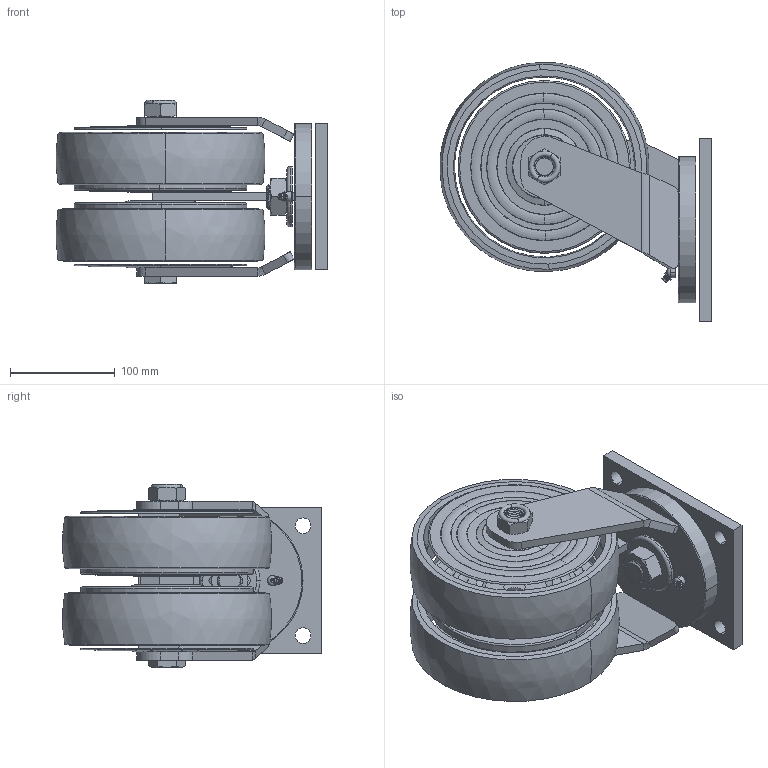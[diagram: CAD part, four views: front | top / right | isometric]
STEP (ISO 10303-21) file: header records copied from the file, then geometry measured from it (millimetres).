
FILE_DESCRIPTION((''),'2;1');
FILE_NAME('PRT0009','2025-05-09T13:21:43',('Administrator'),(''),'CREO PARAMETRIC BY PTC INC, 2022124','CREO PARAMETRIC BY PTC INC, 2022124','');
FILE_SCHEMA(('AP203_CONFIGURATION_CONTROLLED_3D_DESIGN_OF_MECHANICAL_PARTS_AND_ASSEMBLIES_MIM_LF { 1 0 10303 403 2 1 2 }'));
Length unit declared in the file: millimetre
Products named in the file (1): PRT0009
Bounding box: 259.73 x 247.23 x 175 mm (x, y, z)
Surface area: 365585.9 mm2 (no closed solid volume)
Topology: 0 solids, 24 shells, 269 faces, 865 edges, 630 vertices
Faces by surface type: plane 84, torus 74, cone 48, cylinder 46, bspline 17
Entity records: 14478 total; most frequent: CARTESIAN_POINT 5120, DIRECTION 1552, ORIENTED_EDGE 1386, EDGE_CURVE 865, AXIS2_PLACEMENT_3D 661, VERTEX_POINT 630, CIRCLE 399, EDGE_LOOP 313
